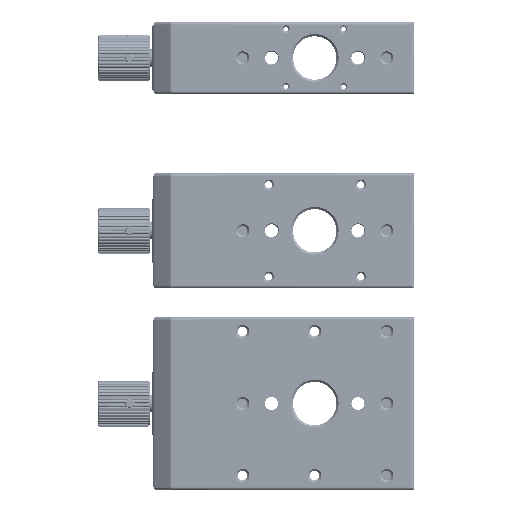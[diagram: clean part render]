
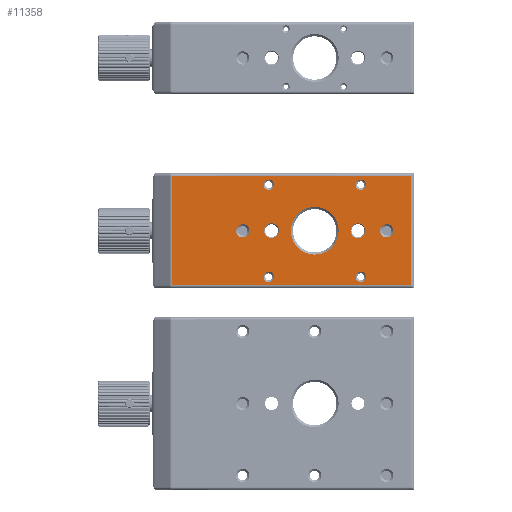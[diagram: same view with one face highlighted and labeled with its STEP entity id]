
A CAD part, top view. The second image highlights one B-rep face of the part: STEP entity #11358.
In plain terms, the highlighted planar face has unit normal (0, 0, 1).
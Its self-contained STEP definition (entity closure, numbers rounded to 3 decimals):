
#1329=CARTESIAN_POINT('',(0.,31.,0.));
#1330=DIRECTION('',(0.,0.,1.));
#1331=DIRECTION('',(0.,1.,0.));
#1332=AXIS2_PLACEMENT_3D('',#1329,#1330,#1331);
#1334=CARTESIAN_POINT('',(0.,31.,0.));
#1335=DIRECTION('',(0.,0.,1.));
#1336=DIRECTION('',(0.,-1.,0.));
#1337=AXIS2_PLACEMENT_3D('',#1334,#1335,#1336);
#1339=CARTESIAN_POINT('',(0.,41.,0.));
#1340=DIRECTION('',(0.,0.,1.));
#1341=DIRECTION('',(-1.,0.,0.));
#1342=AXIS2_PLACEMENT_3D('',#1339,#1340,#1341);
#1344=CARTESIAN_POINT('',(0.,41.,0.));
#1345=DIRECTION('',(0.,0.,1.));
#1346=DIRECTION('',(0.,-1.,0.));
#1347=AXIS2_PLACEMENT_3D('',#1344,#1345,#1346);
#1349=CARTESIAN_POINT('',(0.,41.,0.));
#1350=DIRECTION('',(0.,0.,1.));
#1351=DIRECTION('',(1.,0.,0.));
#1352=AXIS2_PLACEMENT_3D('',#1349,#1350,#1351);
#1354=CARTESIAN_POINT('',(0.,41.,0.));
#1355=DIRECTION('',(0.,0.,1.));
#1356=DIRECTION('',(0.,1.,0.));
#1357=AXIS2_PLACEMENT_3D('',#1354,#1355,#1356);
#1359=CARTESIAN_POINT('',(0.,56.,0.));
#1360=DIRECTION('',(0.,0.,1.));
#1361=DIRECTION('',(-1.,0.,0.));
#1362=AXIS2_PLACEMENT_3D('',#1359,#1360,#1361);
#1364=CARTESIAN_POINT('',(0.,56.,0.));
#1365=DIRECTION('',(0.,0.,1.));
#1366=DIRECTION('',(0.,-1.,0.));
#1367=AXIS2_PLACEMENT_3D('',#1364,#1365,#1366);
#1369=CARTESIAN_POINT('',(0.,56.,0.));
#1370=DIRECTION('',(0.,0.,1.));
#1371=DIRECTION('',(1.,0.,0.));
#1372=AXIS2_PLACEMENT_3D('',#1369,#1370,#1371);
#1374=CARTESIAN_POINT('',(0.,56.,0.));
#1375=DIRECTION('',(0.,0.,1.));
#1376=DIRECTION('',(0.,1.,0.));
#1377=AXIS2_PLACEMENT_3D('',#1374,#1375,#1376);
#1379=CARTESIAN_POINT('',(0.,81.,0.));
#1380=DIRECTION('',(0.,0.,1.));
#1381=DIRECTION('',(0.,1.,0.));
#1382=AXIS2_PLACEMENT_3D('',#1379,#1380,#1381);
#1384=CARTESIAN_POINT('',(0.,81.,0.));
#1385=DIRECTION('',(0.,0.,1.));
#1386=DIRECTION('',(0.,-1.,0.));
#1387=AXIS2_PLACEMENT_3D('',#1384,#1385,#1386);
#1389=CARTESIAN_POINT('',(0.,71.,0.));
#1390=DIRECTION('',(0.,0.,1.));
#1391=DIRECTION('',(1.,0.,0.));
#1392=AXIS2_PLACEMENT_3D('',#1389,#1390,#1391);
#1394=CARTESIAN_POINT('',(0.,71.,0.));
#1395=DIRECTION('',(0.,0.,1.));
#1396=DIRECTION('',(0.,1.,0.));
#1397=AXIS2_PLACEMENT_3D('',#1394,#1395,#1396);
#1399=CARTESIAN_POINT('',(0.,71.,0.));
#1400=DIRECTION('',(0.,0.,1.));
#1401=DIRECTION('',(-1.,0.,0.));
#1402=AXIS2_PLACEMENT_3D('',#1399,#1400,#1401);
#1404=CARTESIAN_POINT('',(0.,71.,0.));
#1405=DIRECTION('',(0.,0.,1.));
#1406=DIRECTION('',(0.,-1.,0.));
#1407=AXIS2_PLACEMENT_3D('',#1404,#1405,#1406);
#1409=CARTESIAN_POINT('',(16.,40.,0.));
#1410=DIRECTION('',(0.,0.,1.));
#1411=DIRECTION('',(0.,1.,0.));
#1412=AXIS2_PLACEMENT_3D('',#1409,#1410,#1411);
#1414=CARTESIAN_POINT('',(16.,40.,0.));
#1415=DIRECTION('',(0.,0.,1.));
#1416=DIRECTION('',(0.,-1.,0.));
#1417=AXIS2_PLACEMENT_3D('',#1414,#1415,#1416);
#1419=CARTESIAN_POINT('',(16.,72.,0.));
#1420=DIRECTION('',(0.,0.,1.));
#1421=DIRECTION('',(0.,1.,0.));
#1422=AXIS2_PLACEMENT_3D('',#1419,#1420,#1421);
#1424=CARTESIAN_POINT('',(16.,72.,0.));
#1425=DIRECTION('',(0.,0.,1.));
#1426=DIRECTION('',(0.,-1.,0.));
#1427=AXIS2_PLACEMENT_3D('',#1424,#1425,#1426);
#1429=CARTESIAN_POINT('',(-16.,72.,0.));
#1430=DIRECTION('',(0.,0.,1.));
#1431=DIRECTION('',(0.,1.,0.));
#1432=AXIS2_PLACEMENT_3D('',#1429,#1430,#1431);
#1434=CARTESIAN_POINT('',(-16.,72.,0.));
#1435=DIRECTION('',(0.,0.,1.));
#1436=DIRECTION('',(0.,-1.,0.));
#1437=AXIS2_PLACEMENT_3D('',#1434,#1435,#1436);
#1439=CARTESIAN_POINT('',(-16.,40.,0.));
#1440=DIRECTION('',(0.,0.,1.));
#1441=DIRECTION('',(0.,1.,0.));
#1442=AXIS2_PLACEMENT_3D('',#1439,#1440,#1441);
#1444=CARTESIAN_POINT('',(-16.,40.,0.));
#1445=DIRECTION('',(0.,0.,1.));
#1446=DIRECTION('',(0.,-1.,0.));
#1447=AXIS2_PLACEMENT_3D('',#1444,#1445,#1446);
#1463=DIRECTION('',(-1.,0.,0.));
#1464=VECTOR('',#1463,38.);
#1465=CARTESIAN_POINT('',(19.,89.5,0.));
#1466=LINE('',#1465,#1464);
#1505=DIRECTION('',(0.,1.,0.));
#1506=VECTOR('',#1505,83.197);
#1507=CARTESIAN_POINT('',(19.,6.303,0.));
#1508=LINE('',#1507,#1506);
#1536=DIRECTION('',(1.,0.,0.));
#1537=VECTOR('',#1536,38.);
#1538=CARTESIAN_POINT('',(-19.,6.303,0.));
#1539=LINE('',#1538,#1537);
#2547=DIRECTION('',(0.,-1.,0.));
#2548=VECTOR('',#2547,83.197);
#2549=CARTESIAN_POINT('',(-19.,89.5,0.));
#2550=LINE('',#2549,#2548);
#9108=CARTESIAN_POINT('',(0.,47.7,0.));
#9109=CARTESIAN_POINT('',(8.3,56.,0.));
#9110=VERTEX_POINT('',#9108);
#9111=VERTEX_POINT('',#9109);
#9112=CARTESIAN_POINT('',(-8.3,56.,0.));
#9113=VERTEX_POINT('',#9112);
#9114=CARTESIAN_POINT('',(19.,89.5,0.));
#9115=CARTESIAN_POINT('',(-19.,89.5,0.));
#9116=VERTEX_POINT('',#9114);
#9117=VERTEX_POINT('',#9115);
#9118=CARTESIAN_POINT('',(19.,6.303,0.));
#9119=VERTEX_POINT('',#9118);
#9120=CARTESIAN_POINT('',(-19.,6.303,0.));
#9121=VERTEX_POINT('',#9120);
#9122=CARTESIAN_POINT('',(0.,33.3,0.));
#9123=CARTESIAN_POINT('',(0.,28.7,0.));
#9124=VERTEX_POINT('',#9122);
#9125=VERTEX_POINT('',#9123);
#9126=CARTESIAN_POINT('',(0.,38.45,0.));
#9127=CARTESIAN_POINT('',(2.55,41.,0.));
#9128=VERTEX_POINT('',#9126);
#9129=VERTEX_POINT('',#9127);
#9130=CARTESIAN_POINT('',(-2.55,41.,0.));
#9131=VERTEX_POINT('',#9130);
#9132=CARTESIAN_POINT('',(0.,43.55,0.));
#9133=VERTEX_POINT('',#9132);
#9134=CARTESIAN_POINT('',(0.,64.3,0.));
#9135=VERTEX_POINT('',#9134);
#9136=CARTESIAN_POINT('',(0.,83.3,0.));
#9137=CARTESIAN_POINT('',(0.,78.7,0.));
#9138=VERTEX_POINT('',#9136);
#9139=VERTEX_POINT('',#9137);
#9140=CARTESIAN_POINT('',(0.,73.55,0.));
#9141=CARTESIAN_POINT('',(-2.55,71.,0.));
#9142=VERTEX_POINT('',#9140);
#9143=VERTEX_POINT('',#9141);
#9144=CARTESIAN_POINT('',(2.55,71.,0.));
#9145=VERTEX_POINT('',#9144);
#9146=CARTESIAN_POINT('',(0.,68.45,0.));
#9147=VERTEX_POINT('',#9146);
#9148=CARTESIAN_POINT('',(16.,41.8,0.));
#9149=CARTESIAN_POINT('',(16.,38.2,0.));
#9150=VERTEX_POINT('',#9148);
#9151=VERTEX_POINT('',#9149);
#9152=CARTESIAN_POINT('',(16.,73.8,0.));
#9153=CARTESIAN_POINT('',(16.,70.2,0.));
#9154=VERTEX_POINT('',#9152);
#9155=VERTEX_POINT('',#9153);
#9156=CARTESIAN_POINT('',(-16.,73.8,0.));
#9157=CARTESIAN_POINT('',(-16.,70.2,0.));
#9158=VERTEX_POINT('',#9156);
#9159=VERTEX_POINT('',#9157);
#9160=CARTESIAN_POINT('',(-16.,41.8,0.));
#9161=CARTESIAN_POINT('',(-16.,38.2,0.));
#9162=VERTEX_POINT('',#9160);
#9163=VERTEX_POINT('',#9161);
#11278=CARTESIAN_POINT('',(-20.,90.5,0.));
#11279=DIRECTION('',(0.,0.,1.));
#11280=DIRECTION('',(0.,-1.,0.));
#11281=AXIS2_PLACEMENT_3D('',#11278,#11279,#11280);
#11282=PLANE('',#11281);
#11284=ORIENTED_EDGE('',*,*,#11283,.F.);
#11286=ORIENTED_EDGE('',*,*,#11285,.F.);
#11288=ORIENTED_EDGE('',*,*,#11287,.F.);
#11290=ORIENTED_EDGE('',*,*,#11289,.F.);
#11291=EDGE_LOOP('',(#11284,#11286,#11288,#11290));
#11292=FACE_OUTER_BOUND('',#11291,.F.);
#11293=ORIENTED_EDGE('',*,*,#11268,.T.);
#11295=ORIENTED_EDGE('',*,*,#11294,.T.);
#11296=EDGE_LOOP('',(#11293,#11295));
#11297=FACE_BOUND('',#11296,.F.);
#11299=ORIENTED_EDGE('',*,*,#11298,.T.);
#11301=ORIENTED_EDGE('',*,*,#11300,.T.);
#11303=ORIENTED_EDGE('',*,*,#11302,.T.);
#11305=ORIENTED_EDGE('',*,*,#11304,.T.);
#11306=EDGE_LOOP('',(#11299,#11301,#11303,#11305));
#11307=FACE_BOUND('',#11306,.F.);
#11309=ORIENTED_EDGE('',*,*,#11308,.T.);
#11311=ORIENTED_EDGE('',*,*,#11310,.T.);
#11313=ORIENTED_EDGE('',*,*,#11312,.T.);
#11315=ORIENTED_EDGE('',*,*,#11314,.T.);
#11316=EDGE_LOOP('',(#11309,#11311,#11313,#11315));
#11317=FACE_BOUND('',#11316,.F.);
#11319=ORIENTED_EDGE('',*,*,#11318,.T.);
#11321=ORIENTED_EDGE('',*,*,#11320,.T.);
#11322=EDGE_LOOP('',(#11319,#11321));
#11323=FACE_BOUND('',#11322,.F.);
#11325=ORIENTED_EDGE('',*,*,#11324,.T.);
#11327=ORIENTED_EDGE('',*,*,#11326,.T.);
#11329=ORIENTED_EDGE('',*,*,#11328,.T.);
#11331=ORIENTED_EDGE('',*,*,#11330,.T.);
#11332=EDGE_LOOP('',(#11325,#11327,#11329,#11331));
#11333=FACE_BOUND('',#11332,.F.);
#11335=ORIENTED_EDGE('',*,*,#11334,.T.);
#11337=ORIENTED_EDGE('',*,*,#11336,.T.);
#11338=EDGE_LOOP('',(#11335,#11337));
#11339=FACE_BOUND('',#11338,.F.);
#11341=ORIENTED_EDGE('',*,*,#11340,.T.);
#11343=ORIENTED_EDGE('',*,*,#11342,.T.);
#11344=EDGE_LOOP('',(#11341,#11343));
#11345=FACE_BOUND('',#11344,.F.);
#11347=ORIENTED_EDGE('',*,*,#11346,.T.);
#11349=ORIENTED_EDGE('',*,*,#11348,.T.);
#11350=EDGE_LOOP('',(#11347,#11349));
#11351=FACE_BOUND('',#11350,.F.);
#11353=ORIENTED_EDGE('',*,*,#11352,.T.);
#11355=ORIENTED_EDGE('',*,*,#11354,.T.);
#11356=EDGE_LOOP('',(#11353,#11355));
#11357=FACE_BOUND('',#11356,.F.);
#11358=ADVANCED_FACE('',(#11292,#11297,#11307,#11317,#11323,#11333,#11339,
#11345,#11351,#11357),#11282,.T.);
#1333=CIRCLE('',#1332,2.3);
#1338=CIRCLE('',#1337,2.3);
#1343=CIRCLE('',#1342,2.55);
#1348=CIRCLE('',#1347,2.55);
#1353=CIRCLE('',#1352,2.55);
#1358=CIRCLE('',#1357,2.55);
#1363=CIRCLE('',#1362,8.3);
#1368=CIRCLE('',#1367,8.3);
#1373=CIRCLE('',#1372,8.3);
#1378=CIRCLE('',#1377,8.3);
#1383=CIRCLE('',#1382,2.3);
#1388=CIRCLE('',#1387,2.3);
#1393=CIRCLE('',#1392,2.55);
#1398=CIRCLE('',#1397,2.55);
#1403=CIRCLE('',#1402,2.55);
#1408=CIRCLE('',#1407,2.55);
#1413=CIRCLE('',#1412,1.8);
#1418=CIRCLE('',#1417,1.8);
#1423=CIRCLE('',#1422,1.8);
#1428=CIRCLE('',#1427,1.8);
#1433=CIRCLE('',#1432,1.8);
#1438=CIRCLE('',#1437,1.8);
#1443=CIRCLE('',#1442,1.8);
#1448=CIRCLE('',#1447,1.8);
#11268=EDGE_CURVE('',#9124,#9125,#1333,.T.);
#11283=EDGE_CURVE('',#9116,#9117,#1466,.T.);
#11285=EDGE_CURVE('',#9119,#9116,#1508,.T.);
#11287=EDGE_CURVE('',#9121,#9119,#1539,.T.);
#11289=EDGE_CURVE('',#9117,#9121,#2550,.T.);
#11294=EDGE_CURVE('',#9125,#9124,#1338,.T.);
#11298=EDGE_CURVE('',#9131,#9128,#1343,.T.);
#11300=EDGE_CURVE('',#9128,#9129,#1348,.T.);
#11302=EDGE_CURVE('',#9129,#9133,#1353,.T.);
#11304=EDGE_CURVE('',#9133,#9131,#1358,.T.);
#11308=EDGE_CURVE('',#9113,#9110,#1363,.T.);
#11310=EDGE_CURVE('',#9110,#9111,#1368,.T.);
#11312=EDGE_CURVE('',#9111,#9135,#1373,.T.);
#11314=EDGE_CURVE('',#9135,#9113,#1378,.T.);
#11318=EDGE_CURVE('',#9138,#9139,#1383,.T.);
#11320=EDGE_CURVE('',#9139,#9138,#1388,.T.);
#11324=EDGE_CURVE('',#9145,#9142,#1393,.T.);
#11326=EDGE_CURVE('',#9142,#9143,#1398,.T.);
#11328=EDGE_CURVE('',#9143,#9147,#1403,.T.);
#11330=EDGE_CURVE('',#9147,#9145,#1408,.T.);
#11334=EDGE_CURVE('',#9150,#9151,#1413,.T.);
#11336=EDGE_CURVE('',#9151,#9150,#1418,.T.);
#11340=EDGE_CURVE('',#9154,#9155,#1423,.T.);
#11342=EDGE_CURVE('',#9155,#9154,#1428,.T.);
#11346=EDGE_CURVE('',#9158,#9159,#1433,.T.);
#11348=EDGE_CURVE('',#9159,#9158,#1438,.T.);
#11352=EDGE_CURVE('',#9162,#9163,#1443,.T.);
#11354=EDGE_CURVE('',#9163,#9162,#1448,.T.);
